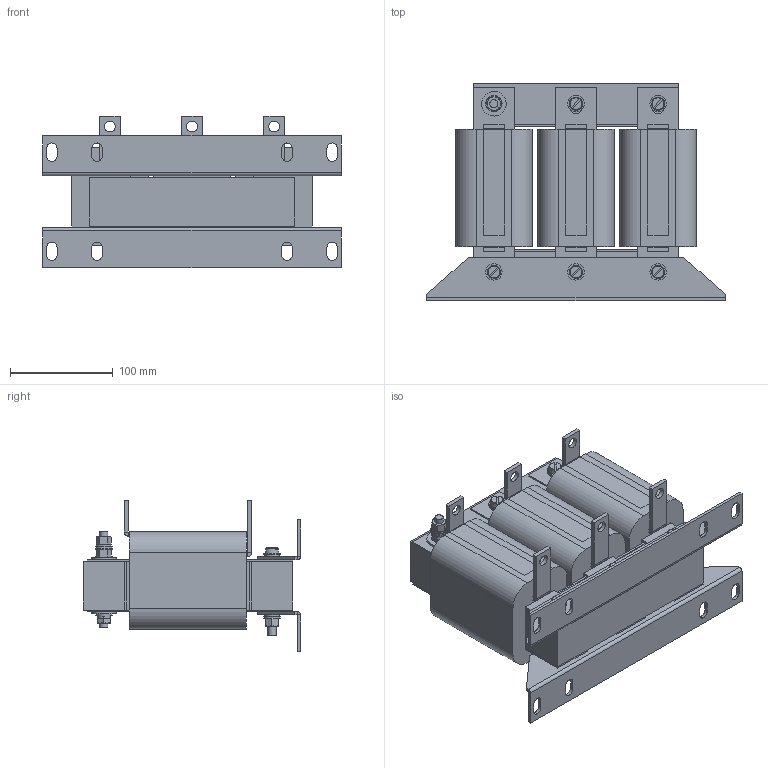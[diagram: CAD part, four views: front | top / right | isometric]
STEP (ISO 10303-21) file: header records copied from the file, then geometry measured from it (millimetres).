
FILE_DESCRIPTION (( 'STEP AP214' ), '1' );
FILE_NAME ('PCT-160.STEP', '2015-04-28T10:38:36', ( 'EDV' ), ( 'Microsoft' ), 'SwSTEP 2.0', 'SolidWorks 2014', '' );
FILE_SCHEMA (( 'AUTOMOTIVE_DESIGN' ));
Length unit declared in the file: millimetre
Products named in the file (19): plain washer grade a_din_Washer DIN 125 - A 8.4; hex nut gradec_din_Hexagon Nut ISO 4034 - M8 - N; plain washer large_din_Washer DIN 9021 - 8.4; +1126-0005; #700-0156; #700-0155; +6226-0002; D57a; Luftspalt 200x47,5x1,85mm; Luftspalt 200x47,5x2mm; Wickel LR3 40-3_160; Joch 3UI 120-47,5; #143-0004; slotted cheese head screw_din_ISO 1207 - M8 x 70 --- 38N; hex nut style 2 gradeab_din_Hexagon Nut ISO 4033 - M8 - D - N; PCT-160; slotted cheese head screw_din_ISO 1207 - M8 x 80 --- 80N; curved spring lock washer_din_Spring washer DIN 128 - A8
Assembly tree (62 placements, depth 2):
  PCT-160
    Joch 3UI 120-47,5
    #143-0004  x3
    Joch 3UI 120-47,5
    Wickel LR3 40-3_160  x3
    Luftspalt 200x47,5x2mm
    Luftspalt 200x47,5x1,85mm
    D57a  x6
    +6226-0002  x2
    #700-0155  x3
    #700-0156  x3
    +1126-0005  x10
    plain washer large_din_Washer DIN 9021 - 8.4  x2
    hex nut gradec_din_Hexagon Nut ISO 4034 - M8 - N  x2
    plain washer grade a_din_Washer DIN 125 - A 8.4  x12
    curved spring lock washer_din_Spring washer DIN 128 - A8
    slotted cheese head screw_din_ISO 1207 - M8 x 80 --- 80N  x4
    hex nut style 2 gradeab_din_Hexagon Nut ISO 4033 - M8 - D - N  x5
    slotted cheese head screw_din_ISO 1207 - M8 x 70 --- 38N  x2
Bounding box: 291 x 211.85 x 147.5 mm (x, y, z)
Volume: 3363157.5 mm3; surface area: 662359.6 mm2
Topology: 62 solids, 62 shells, 935 faces, 2163 edges, 1390 vertices
Faces by surface type: plane 624, cylinder 161, cone 104, bspline 32, torus 14
Full cylindrical faces by diameter (mm): 4.631 x1, 6.8 x7, 8 x13, 8.2 x10, 8.4 x14, 9.9 x10, 10.5 x6, 11 x18, 14 x10, 16 x12, 24 x2
Entity records: 20077 total; most frequent: CARTESIAN_POINT 4982, ORIENTED_EDGE 2332, DIRECTION 2196, EDGE_CURVE 1166, LINE 896, VECTOR 896, VERTEX_POINT 780, AXIS2_PLACEMENT_3D 650
